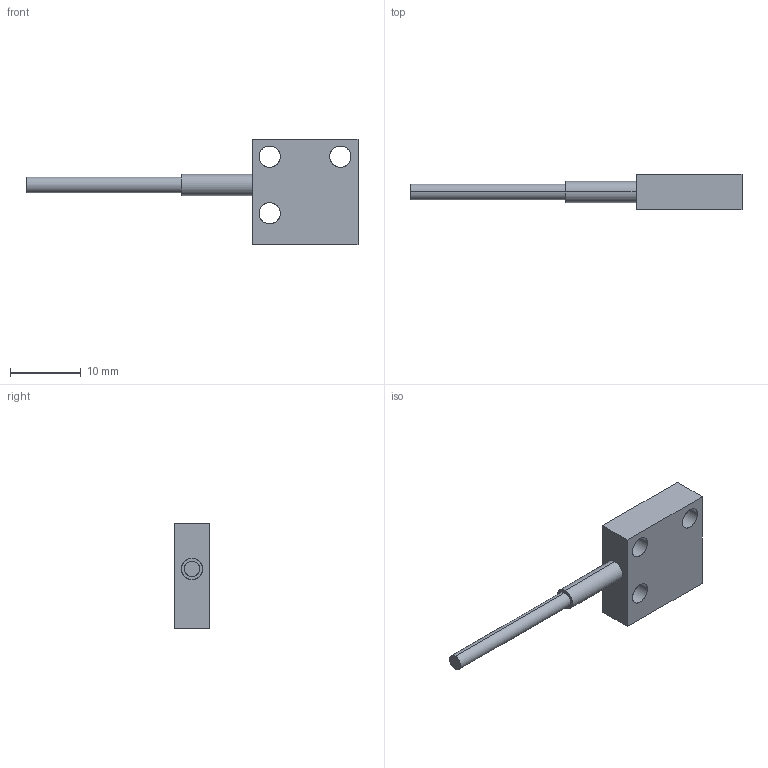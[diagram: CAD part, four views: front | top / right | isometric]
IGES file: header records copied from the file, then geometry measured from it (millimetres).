
Start section: SolidWorks IGES FILE using analytic representation for surfaces
Global section: file name: \\intra-srv04\開発データ\CAD_Data\CAD委員会\3D電子ｶﾀﾛｸﾞ\製品カタログ（新）\0_IGES\FT-AFM2E.IGS,41HSolidWorks 2004; native system: by SolidWorks Corporation; preprocessor: Version 5.3; author: yk0651; date: 050908.143729; units: millimetre
Bounding box: 47 x 5 x 15 mm (x, y, z)
Surface area: 1096.6 mm2 (no closed solid volume)
Topology: 0 solids, 0 shells, 66 faces, 1024 edges, 1024 vertices
Faces by surface type: revolution 42, bspline 24
